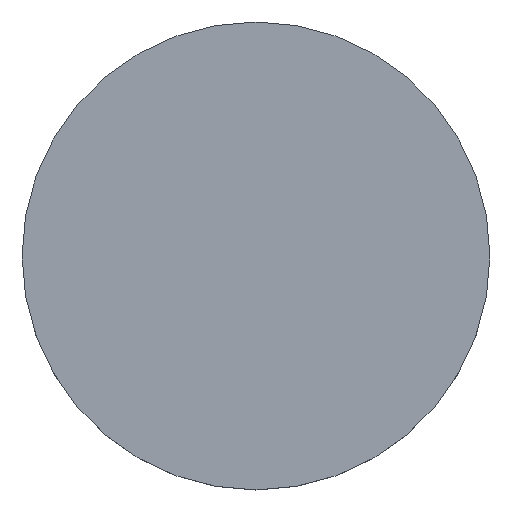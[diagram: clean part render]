
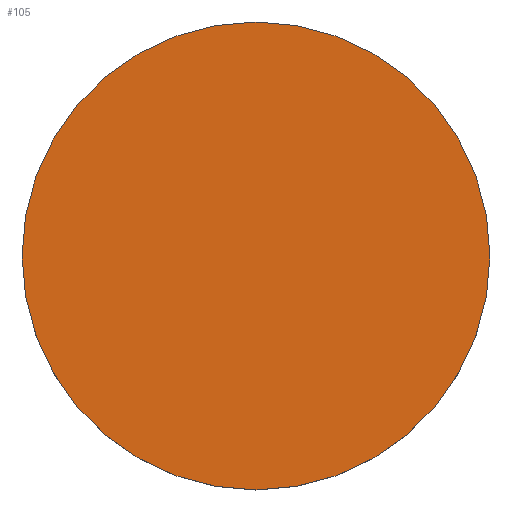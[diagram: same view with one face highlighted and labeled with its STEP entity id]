
A CAD part, top view. The second image highlights one B-rep face of the part: STEP entity #105.
In plain terms, the highlighted planar face has unit normal (0, 0, 1).
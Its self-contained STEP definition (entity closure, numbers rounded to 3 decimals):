
#21 = EDGE_CURVE('',#22,#22,#24,.T.);
#22 = VERTEX_POINT('',#23);
#23 = CARTESIAN_POINT('',(2.,0.,2.38));
#24 = SURFACE_CURVE('',#25,(#30,#42),.PCURVE_S1.);
#25 = CIRCLE('',#26,2.);
#26 = AXIS2_PLACEMENT_3D('',#27,#28,#29);
#27 = CARTESIAN_POINT('',(0.,0.,2.38));
#28 = DIRECTION('',(0.,0.,1.));
#29 = DIRECTION('',(1.,0.,-0.));
#30 = PCURVE('',#31,#36);
#31 = CYLINDRICAL_SURFACE('',#32,2.);
#32 = AXIS2_PLACEMENT_3D('',#33,#34,#35);
#33 = CARTESIAN_POINT('',(0.,0.,1.88));
#34 = DIRECTION('',(0.,0.,1.));
#35 = DIRECTION('',(1.,0.,-0.));
#36 = DEFINITIONAL_REPRESENTATION('',(#37),#41);
#37 = LINE('',#38,#39);
#38 = CARTESIAN_POINT('',(0.,0.5));
#39 = VECTOR('',#40,1.);
#40 = DIRECTION('',(1.,0.));
#41 = ( GEOMETRIC_REPRESENTATION_CONTEXT(2) 
PARAMETRIC_REPRESENTATION_CONTEXT() REPRESENTATION_CONTEXT('2D SPACE',''
  ) );
#42 = PCURVE('',#43,#48);
#43 = PLANE('',#44);
#44 = AXIS2_PLACEMENT_3D('',#45,#46,#47);
#45 = CARTESIAN_POINT('',(0.,0.,2.38));
#46 = DIRECTION('',(0.,0.,1.));
#47 = DIRECTION('',(1.,0.,-0.));
#48 = DEFINITIONAL_REPRESENTATION('',(#49),#53);
#49 = CIRCLE('',#50,2.);
#50 = AXIS2_PLACEMENT_2D('',#51,#52);
#51 = CARTESIAN_POINT('',(0.,0.));
#52 = DIRECTION('',(1.,0.));
#53 = ( GEOMETRIC_REPRESENTATION_CONTEXT(2) 
PARAMETRIC_REPRESENTATION_CONTEXT() REPRESENTATION_CONTEXT('2D SPACE',''
  ) );
#105 = ADVANCED_FACE('',(#106),#43,.T.);
#106 = FACE_BOUND('',#107,.T.);
#107 = EDGE_LOOP('',(#108));
#108 = ORIENTED_EDGE('',*,*,#21,.T.);
